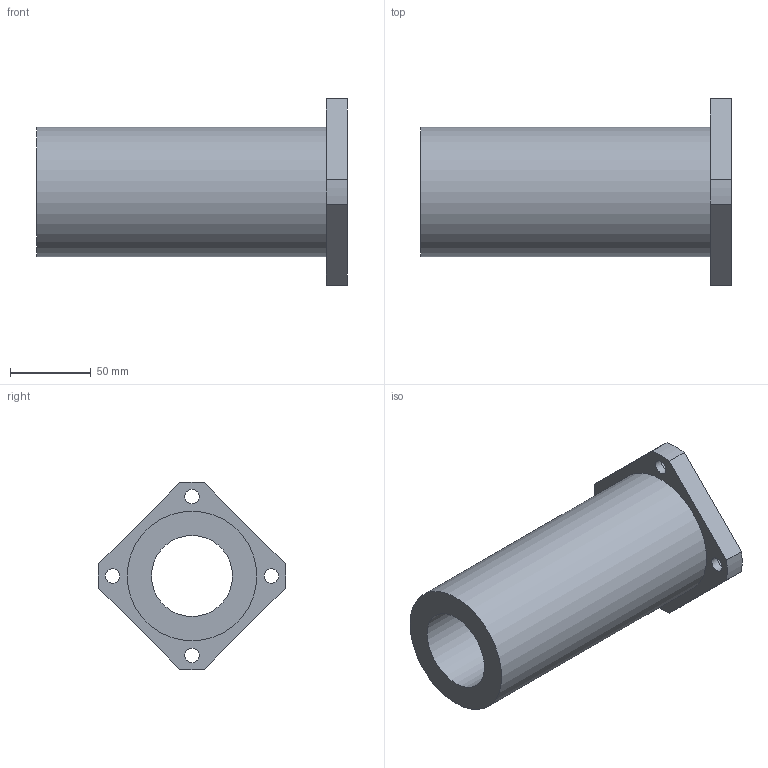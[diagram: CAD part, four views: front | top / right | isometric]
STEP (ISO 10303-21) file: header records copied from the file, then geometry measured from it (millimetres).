
FILE_DESCRIPTION(/* description */ ('Unknown'),/* implementation_level */ '2;1');
FILE_NAME(/* name */ 'LMK50LUU',/* time_stamp */ '2025-02-04T10:49:39+08:00',/* author */ ('Unknown'),/* organization */ ('Unknown'),/* preprocessor_version */ 'ST-DEVELOPER v18.102',/* originating_system */ 'Solid Edge',/* authorisation */ 'Unknown');
FILE_SCHEMA (('AUTOMOTIVE_DESIGN {1 0 10303 214 3 1 1}'));
Length unit declared in the file: millimetre
Products named in the file (1): LMK50LUU
Bounding box: 192 x 115.89 x 115.89 mm (x, y, z)
Volume: 623855 mm3; surface area: 93663.4 mm2
Topology: 1 solids, 1 shells, 25 faces, 54 edges, 36 vertices
Faces by surface type: cylinder 14, plane 11
Full cylindrical faces by diameter (mm): 9 x4, 14 x4, 50 x1, 80 x1
Entity records: 696 total; most frequent: DIRECTION 124, CARTESIAN_POINT 106, ORIENTED_EDGE 88, AXIS2_PLACEMENT_3D 54, EDGE_LOOP 50, FACE_BOUND 50, EDGE_CURVE 44, VERTEX_POINT 36
